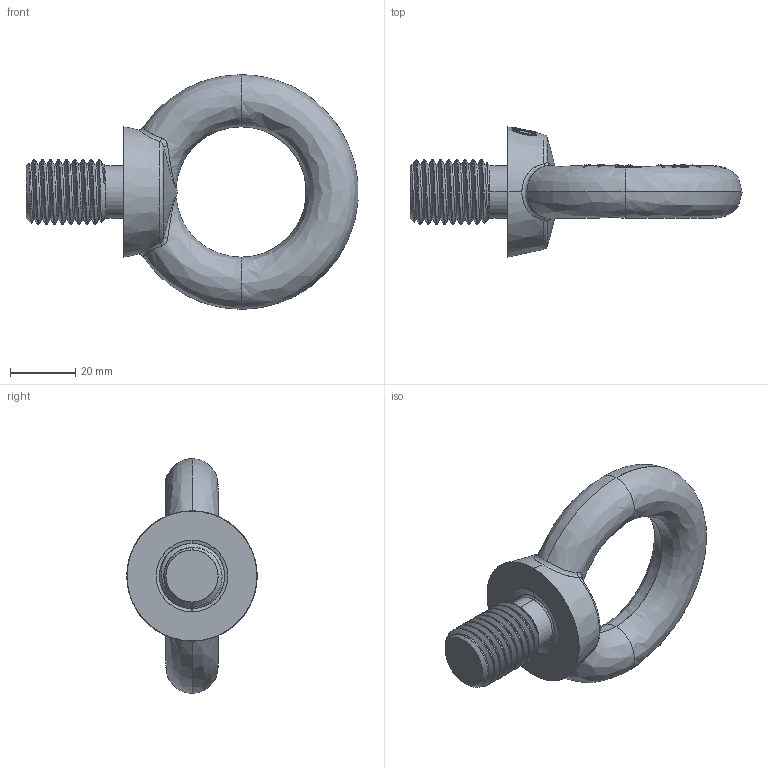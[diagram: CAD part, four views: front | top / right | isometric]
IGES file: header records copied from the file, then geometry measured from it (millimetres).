
Start section: SolidWorks IGES file using analytic representation for surfaces
Global section: file name: C:\Users\Brenton\Documents\Townley\IS Eye Bolt\GPEBM20.IGS; native system: SolidWorks 2012; preprocessor: SolidWorks 2012; author: Brenton; date: 141219.135846; units: millimetre
Bounding box: 101.9 x 39.97 x 72 mm (x, y, z)
Surface area: 13355.7 mm2 (no closed solid volume)
Topology: 0 solids, 0 shells, 348 faces, 5266 edges, 5264 vertices
Faces by surface type: bspline 313, revolution 35
